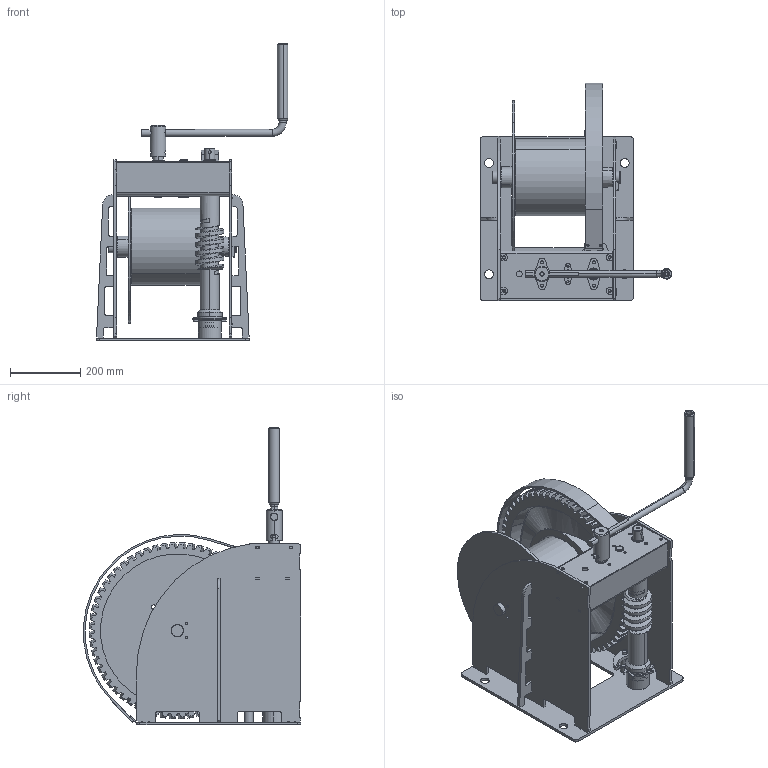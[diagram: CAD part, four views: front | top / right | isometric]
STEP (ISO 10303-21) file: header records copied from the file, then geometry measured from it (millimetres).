
FILE_DESCRIPTION (( 'STEP AP203' ), '1' );
FILE_NAME ('SL9071 WW5000.STEP', '2015-09-16T09:17:55', ( '.' ), ( '.' ), 'SwSTEP 2.0', 'SolidWorks 2015', '' );
FILE_SCHEMA (( 'CONFIG_CONTROL_DESIGN' ));
Length unit declared in the file: millimetre
Products named in the file (41): SL0241_Vastzetnok; SL1457 Beschermkap; SL1341 bevestigingsplaat; SL1339 borgplaat; SL1234_pal_WWgroot; SL0233_Sam trommel; SL9071 WW5000; SL1324 zijstrip; SL1432 trommelas; SL1333_palwiel_WW; SL1429 voorbrug; SL1347 beschermkapplaat; SL1435 Wormas_met worm; SL1332 Lagerbus; SL1430 Sam voorbrug_Zonder lagers; SL1427 Sam huis; SL0368_Slingerkop; SL1425 achterplaat; SL1331 Sam palwiel; SL1321 Flenslager GFL-20; SL0240_Trommelbuis; SL0369_Slingerarm; SL1426 zijplaat; SL1334 remschijf; SL1320 Flenslager GFL-30; SL0251_Trommelflens; SL0370_Handvat; SL1330 Lagerrring; thrust ball bearing_68_din_DIN 711 - 51306 - 10,SI,NC,10_68; SL1336 tussenas; SL1337 aandrijfas; SL0196_Lagerring GL3520; SL0371_Sam slinger; SL1342 palas; SL1348 drukverdeelschijf; SL0206_Tandwiel m3z15; SL0242_Wormwiel; SL0823_glijlager_3520; SL1428 achterbrug; SL1322 glijlager GSM 3034-20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
Assembly tree (55 placements, depth 3):
  SL9071 WW5000
    SL1427 Sam huis
      SL1425 achterplaat
      SL1426 zijplaat  x2
      SL1330 Lagerrring
      SL1342 palas
      SL1428 achterbrug
      SL1341 bevestigingsplaat  x4
      SL1324 zijstrip  x2
      SL1347 beschermkapplaat
    SL0233_Sam trommel
      SL0240_Trommelbuis
      SL0251_Trommelflens
      SL0196_Lagerring GL3520
      SL0242_Wormwiel
      SL0241_Vastzetnok  x4
    SL1430 Sam voorbrug_Zonder lagers
      SL1429 voorbrug
      SL1347 beschermkapplaat
    SL1321 Flenslager GFL-20  x2
    SL1320 Flenslager GFL-30  x3
    SL1337 aandrijfas
    SL1336 tussenas
    SL0206_Tandwiel m3z15  x2
    spur gear_din_DIN - Spur gear 3M 34T 20PA 28FW ---S34A75H50L30.0R1  x3
    SL1234_pal_WWgroot
    SL1331 Sam palwiel
      SL1333_palwiel_WW
      SL1332 Lagerbus
    SL1334 remschijf
    thrust ball bearing_68_din_DIN 711 - 51306 - 10,SI,NC,10_68
    SL1348 drukverdeelschijf
    SL1322 glijlager GSM 3034-20
    SL1339 borgplaat
    SL1432 trommelas
    SL1435 Wormas_met worm
    SL0368_Slingerkop
    SL0371_Sam slinger
      SL0369_Slingerarm
      SL0370_Handvat
    SL0823_glijlager_3520
    SL1457 Beschermkap
Bounding box: 545.04 x 617.37 x 847 mm (x, y, z)
Volume: 15468796 mm3; surface area: 3456863.5 mm2
Topology: 50 solids, 50 shells, 2411 faces, 6573 edges, 4316 vertices
Faces by surface type: cylinder 1225, plane 718, cone 270, bspline 164, torus 34
Entity records: 80335 total; most frequent: CARTESIAN_POINT 32622, ORIENTED_EDGE 9230, DIRECTION 8824, EDGE_CURVE 4615, AXIS2_PLACEMENT_3D 3408, VERTEX_POINT 3016, LINE 2008, VECTOR 2008
